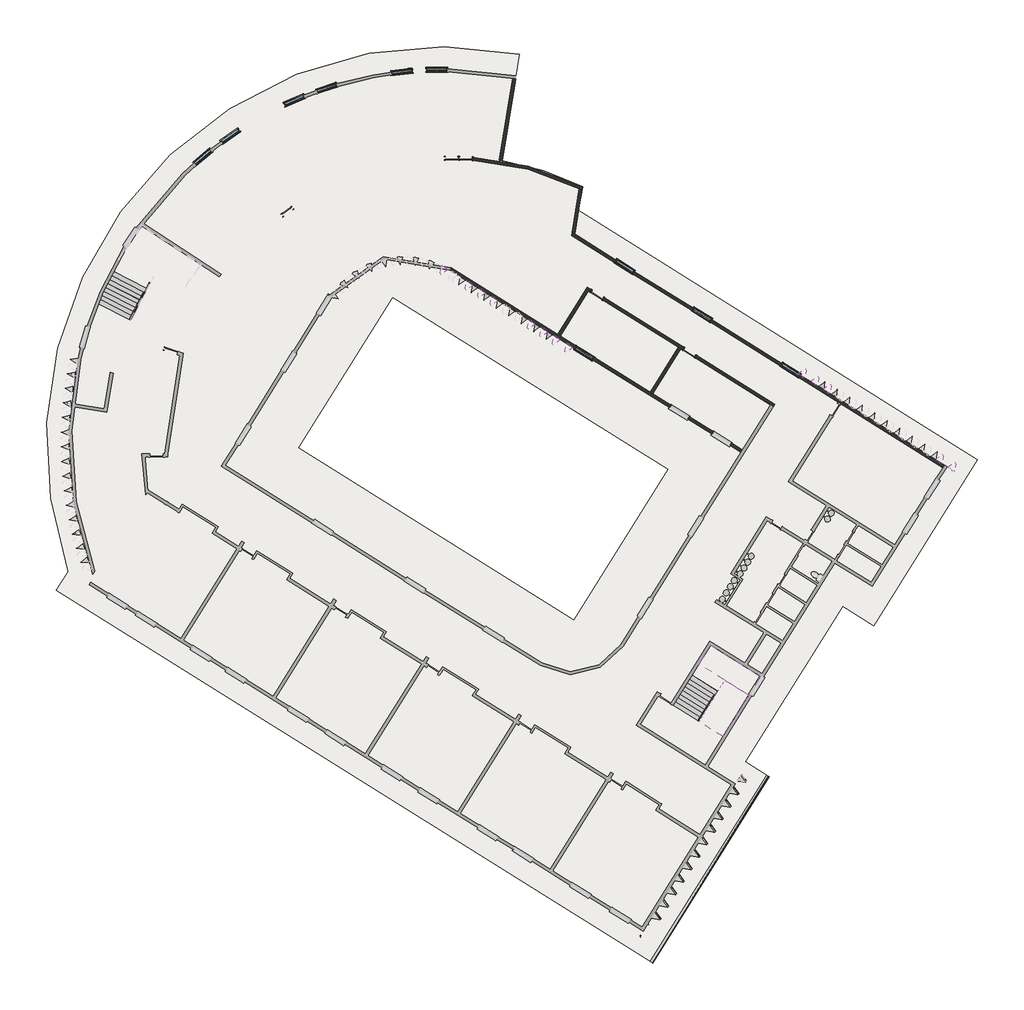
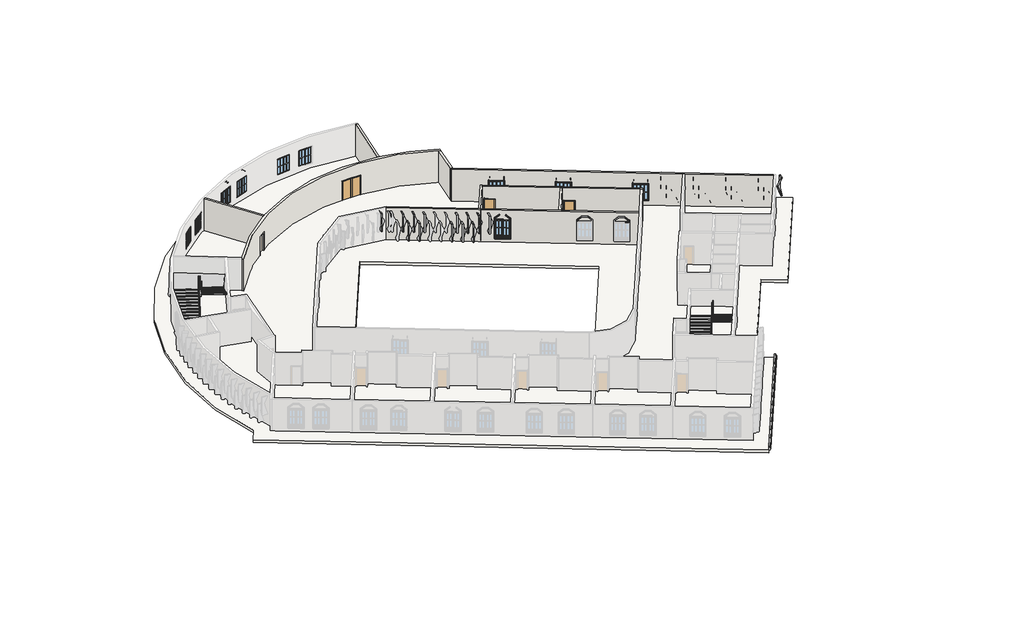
# One storey, part 5 of 7: 20 plates, 10 windows, 9 walls, 4 doors, 3 stair flights, 2 proxies, 2 railings, 2 slabs.
"""IFC4 building model written with IfcOpenShell, lengths in millimetres."""

from ifc_helpers import new_model, si_unit, point, frame, frame_2d, origin, place, context, project, spatial, polyline, circle_curve, trimmed, segment, composite_curve, outline, extrude, faceted_brep, transform, mapped, element, save
from ifc_brep_helpers import plane_surface, cylinder_surface, revolved_surface, advanced_brep
from components import m_single_flush_0915_x_2134mm_6a9e8738, m_single_flush_0915_x_2134mm_727434cd, plate_91021fb5, railing_900mm_pipe_fb1db97c, railing_900mm_pipe_e0949c61, railing_900mm_pipe_ab40f20e, railing_900mm_pipe_1c167c74, non_monolithic_landing_7629b929, stair_flight_50mm_tread_13mm_riser_935e73ca, stair_flight_50mm_tread_13mm_riser_4906f76d, stair_flight_50mm_tread_13mm_riser_db531893, m_window_casement_double_1400_x_1800mm_877d247a, m_window_casement_double_1400_x_1800mm_eb8f2d9a

model = new_model("IFC4")

# Units and contexts
model_context = context("Model", 3, world=origin())
ifc_project = project(units=[si_unit("LENGTHUNIT", "METRE", prefix="MILLI")], contexts=[model_context])

# Site, building, storey
site = spatial("IfcSite", under=ifc_project)
building = spatial("IfcBuilding", under=site)
storey = spatial("IfcBuildingStorey", under=building, Name="\u200fطبقه اول", Elevation=3600.0)

# Proxies
placement = place(None, origin())
element("IfcBuildingElementProxy", 1, Name="Slab Edge", ObjectType="Slab Edge", at=placement, inside=storey, context=model_context, shape_type="SweptSolid", body=[
    extrude(outline(composite_curve([segment(trimmed(circle_curve(frame_2d((-25.0, 173.6933982)), 240.0), [point((0.0, 412.3877634))], [point((204.7347142, 243.1337399))], False, "CARTESIAN"), True, "CONTINUOUS"), segment(trimmed(circle_curve(frame_2d((128.1564761, 219.9869594)), 80.0), [point((204.7347142, 243.1337399))], [point((184.7250186, 163.4184169))], False, "CARTESIAN"), True, "CONTINUOUS"), segment(polyline([(184.7250186, 163.4184169), (175.1471862, 153.8405845)]), True, "CONTINUOUS"), segment(trimmed(circle_curve(frame_2d((260.0, 68.9877707)), 120.0), [point((175.1471862, 153.8405845))], [point((140.0, 68.9877707))], True, "CARTESIAN"), True, "CONTINUOUS"), segment(polyline([(140.0, 68.9877707), (140.0, 24.4091476), (0.0, 24.4091476), (0.0, 412.3877634)]), True, "CONTINUOUS")], self_intersect=False)), frame((42607.9900357, -69663.1030013, 4013.6933982), z_axis=(0.529919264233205, 0.848048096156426, 0.0), x_axis=(0.848048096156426, -0.529919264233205, 0.0)), (0.0, 0.0, 1.0), 14924.0),
])
element("IfcBuildingElementProxy", 2, Name="Slab Edge", ObjectType="Slab Edge", at=placement, inside=storey, context=model_context, shape_type="SweptSolid", body=[
    extrude(outline(composite_curve([segment(trimmed(circle_curve(frame_2d((-25.0, 173.6933982)), 240.0), [point((0.0, 412.3877634))], [point((204.7347142, 243.1337399))], False, "CARTESIAN"), True, "CONTINUOUS"), segment(trimmed(circle_curve(frame_2d((128.1564761, 219.9869594)), 80.0), [point((204.7347142, 243.1337399))], [point((184.7250186, 163.4184169))], False, "CARTESIAN"), True, "CONTINUOUS"), segment(polyline([(184.7250186, 163.4184169), (175.1471862, 153.8405845)]), True, "CONTINUOUS"), segment(trimmed(circle_curve(frame_2d((260.0, 68.9877707)), 120.0), [point((175.1471862, 153.8405845))], [point((140.0, 68.9877707))], True, "CARTESIAN"), True, "CONTINUOUS"), segment(polyline([(140.0, 68.9877707), (140.0, 24.4091476), (0.0, 24.4091476), (0.0, 412.3877634)]), True, "CONTINUOUS")], self_intersect=False)), frame((42607.9900357, -69663.1030013, 4013.6933982), z_axis=(0.529919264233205, 0.848048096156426, 0.0), x_axis=(0.848048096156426, -0.529919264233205, 0.0)), (0.0, 0.0, 1.0), 14924.0),
])

# Doors
m_single_flush_0915_x_2134mm_shape = m_single_flush_0915_x_2134mm_6a9e8738(model_context)
element("IfcDoor", 3, ObjectType="M_Single-Flush : 0915 x 2134mm", at=placement, inside=storey, context=model_context, shape_type="MappedRepresentation", body=[
    mapped(m_single_flush_0915_x_2134mm_shape, transform((38997.6225262, -24350.5747751, 3600.0), x_axis=(-0.8480480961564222, 0.5299192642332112, 0.0), y_axis=(-0.5299192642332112, -0.8480480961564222, 0.0), z_axis=(0.0, 0.0, 1.0))),
])
element("IfcDoor", 4, ObjectType="M_Single-Flush : 0915 x 2134mm", at=placement, inside=storey, context=model_context, shape_type="MappedRepresentation", body=[
    mapped(m_single_flush_0915_x_2134mm_shape, transform((45273.1784378, -28271.9773304, 3600.0), x_axis=(-0.8480480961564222, 0.5299192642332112, 0.0), y_axis=(-0.5299192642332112, -0.8480480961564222, 0.0), z_axis=(0.0, 0.0, 1.0))),
])
element("IfcDoor", 5, ObjectType="M_Single-Flush : 0915 x 2134mm", at=placement, inside=storey, context=model_context, shape_type="MappedRepresentation", body=[
    mapped(m_single_flush_0915_x_2134mm_shape, transform((29130.4178059, -15060.6925463, 3600.0), x_axis=(-0.9999690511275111, -0.007867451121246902, 0.0), y_axis=(0.007867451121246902, -0.9999690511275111, 0.0), z_axis=(0.0, 0.0, 1.0))),
])
m_single_flush_0915_x_2134mm_2_shape = m_single_flush_0915_x_2134mm_727434cd(model_context)
element("IfcDoor", 6, ObjectType="M_Single-Flush : 0915 x 2134mm", at=placement, inside=storey, context=model_context, shape_type="MappedRepresentation", body=[
    mapped(m_single_flush_0915_x_2134mm_2_shape, transform((30049.19591, -15075.0282196, 3600.0), x_axis=(0.9992368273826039, -0.039061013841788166, 0.0), y_axis=(0.039061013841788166, 0.9992368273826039, 0.0), z_axis=(0.0, 0.0, 1.0))),
])

# Plates
plate_shape = plate_91021fb5(model_context)
element("IfcPlate", 7, ObjectType="مدل پارامتریک کصینوس دار : مدل پارامتریک کصینوس دار", at=placement, inside=storey, context=model_context, shape_type="MappedRepresentation", body=[
    mapped(plate_shape, transform((28321.7437148, -22867.9268573, 1850.0), x_axis=(0.0, 0.0, 1.0), y_axis=(0.848048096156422, -0.5299192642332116, 0.0), z_axis=(0.5299192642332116, 0.848048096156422, 0.0))),
])
element("IfcPlate", 8, ObjectType="مدل پارامتریک کصینوس دار : مدل پارامتریک کصینوس دار", at=placement, inside=storey, context=model_context, shape_type="MappedRepresentation", body=[
    mapped(plate_shape, transform((28745.7677628, -23132.8864894, 850.0), x_axis=(0.0, 0.0, 1.0), y_axis=(0.848048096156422, -0.5299192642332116, 0.0), z_axis=(0.5299192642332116, 0.848048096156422, 0.0))),
])
element("IfcPlate", 9, ObjectType="مدل پارامتریک کصینوس دار : مدل پارامتریک کصینوس دار", at=placement, inside=storey, context=model_context, shape_type="MappedRepresentation", body=[
    mapped(plate_shape, transform((29169.7918109, -23397.8461216, 1850.0), x_axis=(0.0, 0.0, 1.0), y_axis=(0.848048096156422, -0.5299192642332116, 0.0), z_axis=(0.5299192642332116, 0.848048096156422, 0.0))),
])
element("IfcPlate", 10, ObjectType="مدل پارامتریک کصینوس دار : مدل پارامتریک کصینوس دار", at=placement, inside=storey, context=model_context, shape_type="MappedRepresentation", body=[
    mapped(plate_shape, transform((29593.815859, -23662.8057537, 850.0), x_axis=(0.0, 0.0, 1.0), y_axis=(0.848048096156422, -0.5299192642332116, 0.0), z_axis=(0.5299192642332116, 0.848048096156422, 0.0))),
])
element("IfcPlate", 11, ObjectType="مدل پارامتریک کصینوس دار : مدل پارامتریک کصینوس دار", at=placement, inside=storey, context=model_context, shape_type="MappedRepresentation", body=[
    mapped(plate_shape, transform((30017.8399071, -23927.7653858, 1850.0), x_axis=(0.0, 0.0, 1.0), y_axis=(0.848048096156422, -0.5299192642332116, 0.0), z_axis=(0.5299192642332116, 0.848048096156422, 0.0))),
])
element("IfcPlate", 12, ObjectType="مدل پارامتریک کصینوس دار : مدل پارامتریک کصینوس دار", at=placement, inside=storey, context=model_context, shape_type="MappedRepresentation", body=[
    mapped(plate_shape, transform((26625.6475224, -21808.0883289, 1850.0), x_axis=(0.0, 0.0, 1.0), y_axis=(0.848048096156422, -0.5299192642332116, 0.0), z_axis=(0.5299192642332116, 0.848048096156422, 0.0))),
])
element("IfcPlate", 13, ObjectType="مدل پارامتریک کصینوس دار : مدل پارامتریک کصینوس دار", at=placement, inside=storey, context=model_context, shape_type="MappedRepresentation", body=[
    mapped(plate_shape, transform((32137.9601475, -25252.5635464, 850.0), x_axis=(0.0, 0.0, 1.0), y_axis=(0.848048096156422, -0.5299192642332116, 0.0), z_axis=(0.5299192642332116, 0.848048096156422, 0.0))),
])
element("IfcPlate", 14, ObjectType="مدل پارامتریک کصینوس دار : مدل پارامتریک کصینوس دار", at=placement, inside=storey, context=model_context, shape_type="MappedRepresentation", body=[
    mapped(plate_shape, transform((32561.9841955, -25517.5231785, 1850.0), x_axis=(0.0, 0.0, 1.0), y_axis=(0.848048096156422, -0.5299192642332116, 0.0), z_axis=(0.5299192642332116, 0.848048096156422, 0.0))),
])
element("IfcPlate", 15, ObjectType="مدل پارامتریک کصینوس دار : مدل پارامتریک کصینوس دار", at=placement, inside=storey, context=model_context, shape_type="MappedRepresentation", body=[
    mapped(plate_shape, transform((32986.0082436, -25782.4828106, 850.0), x_axis=(0.0, 0.0, 1.0), y_axis=(0.848048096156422, -0.5299192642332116, 0.0), z_axis=(0.5299192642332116, 0.848048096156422, 0.0))),
])
element("IfcPlate", 16, ObjectType="مدل پارامتریک کصینوس دار : مدل پارامتریک کصینوس دار", at=placement, inside=storey, context=model_context, shape_type="MappedRepresentation", body=[
    mapped(plate_shape, transform((33410.0322917, -26047.4424427, 1850.0), x_axis=(0.0, 0.0, 1.0), y_axis=(0.848048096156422, -0.5299192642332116, 0.0), z_axis=(0.5299192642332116, 0.848048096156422, 0.0))),
])
element("IfcPlate", 17, ObjectType="مدل پارامتریک کصینوس دار : مدل پارامتریک کصینوس دار", at=placement, inside=storey, context=model_context, shape_type="MappedRepresentation", body=[
    mapped(plate_shape, transform((33834.0563398, -26312.4020748, 850.0), x_axis=(0.0, 0.0, 1.0), y_axis=(0.848048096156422, -0.5299192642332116, 0.0), z_axis=(0.5299192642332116, 0.848048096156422, 0.0))),
])
element("IfcPlate", 18, ObjectType="مدل پارامتریک کصینوس دار : مدل پارامتریک کصینوس دار", at=placement, inside=storey, context=model_context, shape_type="MappedRepresentation", body=[
    mapped(plate_shape, transform((34258.0803878, -26577.361707, 1850.0), x_axis=(0.0, 0.0, 1.0), y_axis=(0.848048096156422, -0.5299192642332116, 0.0), z_axis=(0.5299192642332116, 0.848048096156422, 0.0))),
])
element("IfcPlate", 19, ObjectType="مدل پارامتریک کصینوس دار : مدل پارامتریک کصینوس دار", at=placement, inside=storey, context=model_context, shape_type="MappedRepresentation", body=[
    mapped(plate_shape, transform((35106.128484, -27107.2809712, 1850.0), x_axis=(0.0, 0.0, 1.0), y_axis=(0.8480480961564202, -0.5299192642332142, 0.0), z_axis=(0.5299192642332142, 0.8480480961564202, 0.0))),
])
element("IfcPlate", 20, ObjectType="مدل پارامتریک کصینوس دار : مدل پارامتریک کصینوس دار", at=placement, inside=storey, context=model_context, shape_type="MappedRepresentation", body=[
    mapped(plate_shape, transform((64233.0592008, -36346.0548444, 1850.0), x_axis=(0.0, 0.0, 1.0), y_axis=(-0.848048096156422, 0.5299192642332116, 0.0), z_axis=(-0.5299192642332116, -0.848048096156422, 0.0))),
])
element("IfcPlate", 21, ObjectType="مدل پارامتریک کصینوس دار : مدل پارامتریک کصینوس دار", at=placement, inside=storey, context=model_context, shape_type="MappedRepresentation", body=[
    mapped(plate_shape, transform((65081.107297, -36875.9741086, 1850.0), x_axis=(0.0, 0.0, 1.0), y_axis=(-0.8480480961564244, 0.5299192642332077, 0.0), z_axis=(-0.5299192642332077, -0.8480480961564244, 0.0))),
])
element("IfcPlate", 22, ObjectType="مدل پارامتریک کصینوس دار : مدل پارامتریک کصینوس دار", at=placement, inside=storey, context=model_context, shape_type="MappedRepresentation", body=[
    mapped(plate_shape, transform((57024.6503835, -31841.7410984, 850.0), x_axis=(0.0, 0.0, 1.0), y_axis=(-0.8480480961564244, 0.5299192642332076, 0.0), z_axis=(-0.5299192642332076, -0.8480480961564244, 0.0))),
])
element("IfcPlate", 23, ObjectType="مدل پارامتریک کصینوس دار : مدل پارامتریک کصینوس دار", at=placement, inside=storey, context=model_context, shape_type="MappedRepresentation", body=[
    mapped(plate_shape, transform((56600.6263354, -31576.7814663, 1850.0), x_axis=(0.0, 0.0, 1.0), y_axis=(-0.8480480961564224, 0.5299192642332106, 0.0), z_axis=(-0.5299192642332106, -0.8480480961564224, 0.0))),
])
element("IfcPlate", 24, ObjectType="مدل پارامتریک کصینوس دار : مدل پارامتریک کصینوس دار", at=placement, inside=storey, context=model_context, shape_type="MappedRepresentation", body=[
    mapped(plate_shape, transform((56176.6022874, -31311.8218342, 850.0), x_axis=(0.0, 0.0, 1.0), y_axis=(-0.8480480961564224, 0.5299192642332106, 0.0), z_axis=(-0.5299192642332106, -0.8480480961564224, 0.0))),
])
element("IfcPlate", 25, ObjectType="مدل پارامتریک کصینوس دار : مدل پارامتریک کصینوس دار", at=placement, inside=storey, context=model_context, shape_type="MappedRepresentation", body=[
    mapped(plate_shape, transform((55752.5782393, -31046.862202, 1850.0), x_axis=(0.0, 0.0, 1.0), y_axis=(-0.8480480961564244, 0.5299192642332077, 0.0), z_axis=(-0.5299192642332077, -0.8480480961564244, 0.0))),
])
element("IfcPlate", 26, ObjectType="مدل پارامتریک کصینوس دار : مدل پارامتریک کصینوس دار", at=placement, inside=storey, context=model_context, shape_type="MappedRepresentation", body=[
    mapped(plate_shape, transform((54904.5301431, -30516.9429378, 1850.0), x_axis=(0.0, 0.0, 1.0), y_axis=(-0.8480480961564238, 0.5299192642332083, 0.0), z_axis=(-0.5299192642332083, -0.8480480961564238, 0.0))),
])

# Railings
railing_900mm_pipe_shape = railing_900mm_pipe_fb1db97c(model_context)
railing_900mm_pipe_2_shape = railing_900mm_pipe_e0949c61(model_context)
railing_900mm_pipe_3_shape = railing_900mm_pipe_ab40f20e(model_context)
element("IfcRailing", 27, ObjectType="900mm Pipe", at=placement, inside=storey, context=model_context, shape_type="MappedRepresentation", body=[
    mapped(railing_900mm_pipe_shape, transform((0.0, 0.0, 0.0), x_axis=(1.0, 0.0, 0.0), y_axis=(0.0, 1.0, 0.0), z_axis=(0.0, 0.0, 1.0))),
    mapped(railing_900mm_pipe_2_shape, transform((0.0, 0.0, 0.0), x_axis=(1.0, 0.0, 0.0), y_axis=(0.0, 1.0, 0.0), z_axis=(0.0, 0.0, 1.0))),
    mapped(railing_900mm_pipe_3_shape, transform((0.0, 0.0, 0.0), x_axis=(1.0, 0.0, 0.0), y_axis=(0.0, 1.0, 0.0), z_axis=(0.0, 0.0, 1.0))),
])
railing_900mm_pipe_4_shape = railing_900mm_pipe_1c167c74(model_context)
element("IfcRailing", 28, ObjectType="900mm Pipe", at=placement, inside=storey, context=model_context, shape_type="MappedRepresentation", body=[
    mapped(railing_900mm_pipe_4_shape, transform((0.0, 0.0, 0.0), x_axis=(1.0, 0.0, 0.0), y_axis=(0.0, 1.0, 0.0), z_axis=(0.0, 0.0, 1.0))),
])

# Slabs
element("IfcSlab", 29, ObjectType="Generic 300mm", at=placement, inside=storey, context=model_context, shape_type="AdvancedBrep", body=[
    advanced_brep(
    [(32560.1468391, -15229.2500289, 3300.0), (38009.1695578, -16994.0130265, 3300.0), (37724.5366953, -18602.5131629, 3300.0), (64847.7832747, -35550.9986746, 3300.0), (57799.8570604, -46830.0383535, 3300.0), (55679.73682, -45505.2401929, 3300.0), (49061.0452097, -56097.3609139, 3300.0), (50516.5051351, -57006.8332142, 3300.0), (42607.9900357, -69663.1030013, 3300.0), (2240.9006586, -44438.9460238, 3300.0), (3040.8171967, -43158.8119675, 3300.0), (33712.3314439, -7983.227082, 3300.0), (25100.771805, -24531.4615793, 3300.0), (18711.0017166, -34757.2312843, 3300.0), (37401.1890493, -46436.1565299, 3300.0), (43790.9591376, -36210.3868249, 3300.0), (32560.1468391, -15229.2500289, 3600.0), (33712.3314439, -7983.227082, 3600.0), (3040.8171967, -43158.8119675, 3600.0), (2240.9006586, -44438.9460238, 3600.0), (42607.9900357, -69663.1030013, 3600.0), (50516.5051351, -57006.8332142, 3600.0), (49061.0452097, -56097.3609139, 3600.0), (55679.73682, -45505.2401929, 3600.0), (57799.8570604, -46830.0383535, 3600.0), (64847.7832747, -35550.9986746, 3600.0), (37724.5366953, -18602.5131629, 3600.0), (38009.1695578, -16994.0130265, 3600.0), (25100.771805, -24531.4615793, 3600.0), (43790.9591376, -36210.3868249, 3600.0), (37401.1890493, -46436.1565299, 3600.0), (18711.0017166, -34757.2312843, 3600.0), (25100.771805, -24531.4615793, 3301.3056348), (18711.0017166, -34757.2312843, 3301.3056348), (37401.1890493, -46436.1565299, 3301.3056348), (43790.9591376, -36210.3868249, 3301.3056348)],
    [
        (0, 1, circle_curve(frame((29284.4488792, -34638.3554793, 3300.0), z_axis=(0.0, 0.0, -1.0), x_axis=(1.0, 0.0, 0.0)), 19683.5863478)),
        (1, 2),
        (2, 3),
        (3, 4),
        (4, 5),
        (5, 6),
        (6, 7),
        (7, 8),
        (8, 9),
        (9, 10),
        (10, 11, circle_curve(frame((28463.2186017, -34366.1157481, 3300.0), z_axis=(0.0, 0.0, -1.0), x_axis=(1.0, 0.0, 0.0)), 26900.0)),
        (11, 0),
        (12, 13),
        (13, 14),
        (14, 15),
        (15, 12),
        (16, 17),
        (17, 18, circle_curve(frame((28463.2186017, -34366.1157481, 3600.0), z_axis=(0.0, 0.0, 1.0), x_axis=(1.0, 0.0, 0.0)), 26900.0)),
        (18, 19),
        (19, 20),
        (20, 21),
        (21, 22),
        (22, 23),
        (23, 24),
        (24, 25),
        (25, 26),
        (26, 27),
        (27, 16, circle_curve(frame((29284.4488792, -34638.3554793, 3600.0), z_axis=(0.0, 0.0, 1.0), x_axis=(1.0, 0.0, 0.0)), 19683.5863478)),
        (28, 29),
        (29, 30),
        (30, 31),
        (31, 28),
        (1, 27),
        (26, 2),
        (25, 3),
        (24, 4),
        (23, 5),
        (22, 6),
        (21, 7),
        (20, 8),
        (19, 9),
        (18, 10),
        (17, 11),
        (16, 0),
        (12, 32),
        (32, 28),
        (31, 33),
        (33, 13),
        (30, 34),
        (34, 14),
        (29, 35),
        (35, 15),
    ],
    [
        plane_surface(frame((48968.0352269, -34638.3554793, 3300.0), z_axis=(0.0, 0.0, -1.0), x_axis=(0.0, -1.0, 0.0))),
        plane_surface(frame((48968.0352269, -34638.3554793, 3600.0), z_axis=(0.0, 0.0, 1.0), x_axis=(0.0, 1.0, 0.0))),
        plane_surface(frame((38009.1695578, -16994.0130265, 3300.0), z_axis=(0.9847017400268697, -0.17424833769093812, 0.0), x_axis=(0.0, 0.0, 1.0))),
        plane_surface(frame((37724.5366953, -18602.5131629, 3300.0), z_axis=(0.5299192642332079, 0.8480480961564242, 0.0), x_axis=(0.0, 0.0, 1.0))),
        plane_surface(frame((64847.7832747, -35550.9986746, 3300.0), z_axis=(0.8480480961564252, -0.5299192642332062, 0.0), x_axis=(0.0, 0.0, 1.0))),
        plane_surface(frame((57799.8570604, -46830.0383535, 3300.0), z_axis=(-0.5299192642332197, -0.8480480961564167, 0.0), x_axis=(0.0, 0.0, 1.0))),
        plane_surface(frame((55679.73682, -45505.2401929, 3300.0), z_axis=(0.848048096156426, -0.529919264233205, 0.0), x_axis=(0.0, 0.0, 1.0))),
        plane_surface(frame((49061.0452097, -56097.3609139, 3300.0), z_axis=(0.5299192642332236, 0.8480480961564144, 0.0), x_axis=(0.0, 0.0, 1.0))),
        plane_surface(frame((50516.5051351, -57006.8332142, 3300.0), z_axis=(0.8480480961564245, -0.5299192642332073, 0.0), x_axis=(0.0, 0.0, 1.0))),
        plane_surface(frame((42607.9900357, -69663.1030013, 3300.0), z_axis=(-0.529919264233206, -0.8480480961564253, 0.0), x_axis=(0.0, 0.0, 1.0))),
        plane_surface(frame((2240.9006586, -44438.9460238, 3300.0), z_axis=(-0.8480480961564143, 0.5299192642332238, 0.0), x_axis=(0.0, 0.0, 1.0))),
        cylinder_surface(frame((28463.2186017, -34366.1157481, 3600.0), z_axis=(0.0, 0.0, -1.0), x_axis=(1.0, 0.0, 0.0)), 26900.0),
        plane_surface(frame((33712.3314439, -7983.227082, 3300.0), z_axis=(0.9875928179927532, -0.15703638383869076, 0.0), x_axis=(0.0, 0.0, 1.0))),
        plane_surface(frame((25100.771805, -24531.4615793, 3300.0), z_axis=(0.8480480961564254, -0.5299192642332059, 0.0), x_axis=(0.0, 0.0, 1.0))),
        plane_surface(frame((18711.0017166, -34757.2312843, 3300.0), z_axis=(0.5299192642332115, 0.848048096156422, 0.0), x_axis=(0.0, 0.0, 1.0))),
        plane_surface(frame((37401.1890493, -46436.1565299, 3300.0), z_axis=(-0.8480480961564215, 0.5299192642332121, 0.0), x_axis=(0.0, 0.0, 1.0))),
        plane_surface(frame((43790.9591376, -36210.3868249, 3300.0), z_axis=(-0.5299192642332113, -0.8480480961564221, 0.0), x_axis=(0.0, 0.0, 1.0))),
        cylinder_surface(frame((29284.4488792, -34638.3554793, 3600.0), z_axis=(0.0, 0.0, -1.0), x_axis=(1.0, 0.0, 0.0)), 19683.5863478),
    ],
    [
        (0, [[1, 2, 3, 4, 5, 6, 7, 8, 9, 10, 11, 12], [13, 14, 15, 16]]),
        (1, [[17, 18, 19, 20, 21, 22, 23, 24, 25, 26, 27, 28], [29, 30, 31, 32]]),
        (2, [[-2, 33, -27, 34]]),
        (3, [[-3, -34, -26, 35]]),
        (4, [[-4, -35, -25, 36]]),
        (5, [[-5, -36, -24, 37]]),
        (6, [[-6, -37, -23, 38]]),
        (7, [[-7, -38, -22, 39]]),
        (8, [[-8, -39, -21, 40]]),
        (9, [[-9, -40, -20, 41]]),
        (10, [[-10, -41, -19, 42]]),
        (11, [[-11, -42, -18, 43]]),
        (12, [[-12, -43, -17, 44]]),
        (13, [[-13, 45, 46, -32, 47, 48]]),
        (14, [[-14, -48, -47, -31, 49, 50]]),
        (15, [[-15, -50, -49, -30, 51, 52]]),
        (16, [[-16, -52, -51, -29, -46, -45]]),
        (17, [[-1, -44, -28, -33]]),
    ],
),
])
non_monolithic_landing_shape = non_monolithic_landing_7629b929(model_context)
element("IfcSlab", 30, ObjectType="Non-Monolithic Landing", at=placement, inside=storey, context=model_context, shape_type="MappedRepresentation", body=[
    mapped(non_monolithic_landing_shape, transform((0.0, 0.0, 0.0), x_axis=(1.0, 0.0, 0.0), y_axis=(0.0, 1.0, 0.0), z_axis=(0.0, 0.0, 1.0))),
])

# Stair flights
stair_flight_50mm_tread_13mm_riser_shape = stair_flight_50mm_tread_13mm_riser_935e73ca(model_context)
element("IfcStairFlight", 31, ObjectType="50mm Tread 13mm Riser", at=placement, inside=storey, context=model_context, shape_type="MappedRepresentation", body=[
    mapped(stair_flight_50mm_tread_13mm_riser_shape, transform((0.0, 0.0, 0.0), x_axis=(1.0, 0.0, 0.0), y_axis=(0.0, 1.0, 0.0), z_axis=(0.0, 0.0, 1.0))),
])
stair_flight_50mm_tread_13mm_riser_2_shape = stair_flight_50mm_tread_13mm_riser_4906f76d(model_context)
element("IfcStairFlight", 32, ObjectType="50mm Tread 13mm Riser", at=placement, inside=storey, context=model_context, shape_type="MappedRepresentation", body=[
    mapped(stair_flight_50mm_tread_13mm_riser_2_shape, transform((0.0, 0.0, 0.0), x_axis=(1.0, 0.0, 0.0), y_axis=(0.0, 1.0, 0.0), z_axis=(0.0, 0.0, 1.0))),
])
stair_flight_50mm_tread_13mm_riser_3_shape = stair_flight_50mm_tread_13mm_riser_db531893(model_context)
element("IfcStairFlight", 33, ObjectType="50mm Tread 13mm Riser", at=placement, inside=storey, context=model_context, shape_type="MappedRepresentation", body=[
    mapped(stair_flight_50mm_tread_13mm_riser_3_shape, transform((0.0, 0.0, 0.0), x_axis=(1.0, 0.0, 0.0), y_axis=(0.0, 1.0, 0.0), z_axis=(0.0, 0.0, 1.0))),
])

# Walls
element("IfcWall", 34, ObjectType="Generic - 200mm", at=placement, inside=storey, context=model_context, shape_type="AdvancedBrep", body=[
    advanced_brep(
    [(37988.2881496, -16983.7030198, 7200.0), (32530.3023083, -15224.2368273, 7200.0), (32332.881894, -15192.2600934, 7200.0), (18648.3297429, -18075.8515422, 7200.0), (18480.5842014, -18184.7821717, 7200.0), (13437.2648154, -22963.1544096, 7200.0), (13319.2946092, -23124.9971226, 7200.0), (13486.8274273, -23234.6151527, 7200.0), (37767.5073827, -17098.4624828, 7200.0), (37955.3927954, -17190.5800173, 7200.0), (30502.4385245, -15192.8768738, 3600.0), (30510.2528599, -14992.9749507, 3600.0), (32332.8784519, -15192.2595048, 3600.0), (32530.3066888, -15224.23759, 3600.0), (37988.2881496, -16983.7030198, 3600.0), (37955.3927954, -17190.5800173, 3600.0), (37767.5085257, -17098.4630065, 3600.0), (29587.1169017, -14957.0962823, 3600.0), (29595.9511629, -14957.2341231, 3600.0), (29588.5979456, -15145.3399811, 3600.0), (28673.7191397, -15164.3434079, 3600.0), (18292.4194148, -18551.546435, 3600.0), (18176.3561425, -18388.6217195, 3600.0), (18480.600027, -18184.7716766, 3600.0), (18648.330951, -18075.8506955, 3600.0), (28672.1452199, -14964.2950001, 3600.0), (17671.7937383, -18993.663806, 3600.0), (13486.8274273, -23234.6151527, 3600.0), (13319.2946092, -23124.9971226, 3600.0), (13437.2633045, -22963.156374, 3600.0), (17555.730466, -18830.7390905, 3600.0), (18176.3561425, -18388.6217195, 5632.0), (17555.730466, -18830.7390905, 5632.0), (30510.2528599, -14992.9749507, 5734.0), (29595.9511629, -14957.2341231, 5734.0), (29587.1169017, -14957.0962823, 5734.0), (28672.1452199, -14964.2950001, 5734.0), (18292.4194148, -18551.546435, 5632.0), (28673.7191397, -15164.3434079, 5734.0), (30502.4385245, -15192.8768738, 5734.0), (17671.7937383, -18993.663806, 5632.0), (29588.5979456, -15145.3399811, 5734.0)],
    [
        (0, 1, circle_curve(frame((29284.4488792, -34638.3554793, 7200.0), z_axis=(0.0, 0.0, 1.0), x_axis=(1.0, 0.0, 0.0)), 19683.5863478)),
        (1, 2, circle_curve(frame((29284.4488792, -34638.3554793, 7200.0), z_axis=(0.0, 0.0, 1.0), x_axis=(1.0, 0.0, 0.0)), 19683.5862463)),
        (2, 3, circle_curve(frame((29284.4488792, -34638.3554793, 7200.0), z_axis=(0.0, 0.0, 1.0), x_axis=(1.0, 0.0, 0.0)), 19683.5862993)),
        (3, 4, circle_curve(frame((29284.4488792, -34638.3554793, 7200.0), z_axis=(0.0, 0.0, 1.0), x_axis=(1.0, 0.0, 0.0)), 19683.5862318)),
        (4, 5, circle_curve(frame((29284.4488792, -34638.3554793, 7200.0), z_axis=(0.0, 0.0, 1.0), x_axis=(1.0, 0.0, 0.0)), 19683.5862221)),
        (5, 6, circle_curve(frame((29284.4488792, -34638.3554793, 7200.0), z_axis=(0.0, 0.0, 1.0), x_axis=(1.0, 0.0, 0.0)), 19683.5861257)),
        (6, 7),
        (7, 8, circle_curve(frame((29284.4488792, -34638.3554793, 7200.0), z_axis=(0.0, 0.0, -1.0), x_axis=(1.0, 0.0, 0.0)), 19483.5863478)),
        (8, 9, circle_curve(frame((29284.4488792, -34638.3554793, 7200.0), z_axis=(0.0, 0.0, -1.0), x_axis=(1.0, 0.0, 0.0)), 19483.5861151)),
        (9, 0),
        (10, 11),
        (11, 12, circle_curve(frame((29284.4488792, -34638.3554793, 3600.0), z_axis=(0.0, 0.0, -1.0), x_axis=(1.0, 0.0, 0.0)), 19683.5863478)),
        (12, 13, circle_curve(frame((29284.4488792, -34638.3554793, 3600.0), z_axis=(0.0, 0.0, -1.0), x_axis=(1.0, 0.0, 0.0)), 19683.5863478)),
        (13, 14, circle_curve(frame((29284.4488792, -34638.3554793, 3600.0), z_axis=(0.0, 0.0, -1.0), x_axis=(1.0, 0.0, 0.0)), 19683.5862164)),
        (14, 15),
        (15, 16, circle_curve(frame((29284.4488792, -34638.3554793, 3600.0), z_axis=(0.0, 0.0, 1.0), x_axis=(1.0, 0.0, 0.0)), 19483.5863478)),
        (16, 10, circle_curve(frame((29284.4488792, -34638.3554793, 3600.0), z_axis=(0.0, 0.0, 1.0), x_axis=(1.0, 0.0, 0.0)), 19483.5861413)),
        (17, 18, circle_curve(frame((29284.4488792, -34638.3554793, 3600.0), z_axis=(0.0, 0.0, -1.0), x_axis=(1.0, 0.0, 0.0)), 19683.5863478)),
        (18, 19),
        (19, 17),
        (20, 21, circle_curve(frame((29284.4488792, -34638.3554793, 3600.0), z_axis=(0.0, 0.0, 1.0), x_axis=(1.0, 0.0, 0.0)), 19483.5863478)),
        (21, 22),
        (22, 23, circle_curve(frame((29284.4488792, -34638.3554793, 3600.0), z_axis=(0.0, 0.0, -1.0), x_axis=(1.0, 0.0, 0.0)), 19683.5863478)),
        (23, 24, circle_curve(frame((29284.4488792, -34638.3554793, 3600.0), z_axis=(0.0, 0.0, -1.0), x_axis=(1.0, 0.0, 0.0)), 19683.5863087)),
        (24, 25, circle_curve(frame((29284.4488792, -34638.3554793, 3600.0), z_axis=(0.0, 0.0, -1.0), x_axis=(1.0, 0.0, 0.0)), 19683.5862914)),
        (25, 20),
        (26, 27, circle_curve(frame((29284.4488792, -34638.3554793, 3600.0), z_axis=(0.0, 0.0, 1.0), x_axis=(1.0, 0.0, 0.0)), 19483.5863478)),
        (27, 28),
        (28, 29, circle_curve(frame((29284.4488792, -34638.3554793, 3600.0), z_axis=(0.0, 0.0, -1.0), x_axis=(1.0, 0.0, 0.0)), 19683.5863478)),
        (29, 30, circle_curve(frame((29284.4488792, -34638.3554793, 3600.0), z_axis=(0.0, 0.0, -1.0), x_axis=(1.0, 0.0, 0.0)), 19683.586177)),
        (30, 26),
        (22, 31),
        (31, 32, circle_curve(frame((29284.4488792, -34638.3554793, 5632.0), z_axis=(0.0, 0.0, 1.0), x_axis=(1.0, 0.0, 0.0)), 19683.5863478)),
        (32, 30),
        (28, 6),
        (0, 14),
        (11, 33),
        (33, 34, circle_curve(frame((29284.4488792, -34638.3554793, 5734.0), z_axis=(0.0, 0.0, 1.0), x_axis=(1.0, 0.0, 0.0)), 19683.5863478)),
        (34, 18),
        (17, 35),
        (35, 36, circle_curve(frame((29284.4488792, -34638.3554793, 5734.0), z_axis=(0.0, 0.0, 1.0), x_axis=(1.0, 0.0, 0.0)), 19683.5863478)),
        (36, 25),
        (37, 21),
        (20, 38),
        (38, 39, circle_curve(frame((29284.4488792, -34638.3554793, 5734.0), z_axis=(0.0, 0.0, -1.0), x_axis=(1.0, 0.0, 0.0)), 19483.5863478)),
        (39, 10),
        (15, 9),
        (7, 27),
        (26, 40),
        (40, 37, circle_curve(frame((29284.4488792, -34638.3554793, 5632.0), z_axis=(0.0, 0.0, -1.0), x_axis=(1.0, 0.0, 0.0)), 19483.5863478)),
        (39, 33),
        (38, 36),
        (35, 41),
        (41, 34),
        (41, 19),
        (37, 31),
        (40, 32),
    ],
    [
        plane_surface(frame((48968.0352269, -34638.3554793, 7200.0), z_axis=(0.0, 0.0, 1.0), x_axis=(0.0, 1.0, 0.0))),
        plane_surface(frame((48968.0352269, -34638.3554793, 3600.0), z_axis=(0.0, 0.0, -1.0), x_axis=(0.0, -1.0, 0.0))),
        cylinder_surface(frame((29284.4488792, -34638.3554793, 3600.0), z_axis=(0.0, 0.0, 1.0), x_axis=(1.0, 0.0, 0.0)), 19683.5863478),
        revolved_surface(polyline([(48768.035227, -34638.3554793, 3600.0), (48768.035227, -34638.3554793, 7200.0)]), (29284.4488792, -34638.3554793, 3600.0), (0.0, 0.0, -1.0)),
        plane_surface(frame((8007.1130947, -19649.1953072, 3600.0), z_axis=(-0.547519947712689, -0.8367926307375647, 0.0), x_axis=(0.8367926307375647, -0.547519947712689, 0.0))),
        plane_surface(frame((30510.2528599, -14992.9749507, 3600.0), z_axis=(-0.9992368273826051, 0.03906101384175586, 0.0), x_axis=(-0.03906101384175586, -0.9992368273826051, 0.0))),
        plane_surface(frame((30510.2528599, -14992.9749507, 5734.0), z_axis=(0.0, 0.0, -1.0), x_axis=(-0.039061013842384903, -0.9992368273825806, 0.0))),
        plane_surface(frame((29595.9511629, -14957.2341231, 5734.0), z_axis=(0.9992368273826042, -0.039061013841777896, 0.0), x_axis=(-0.039061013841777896, -0.9992368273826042, 0.0))),
        plane_surface(frame((28660.1552244, -13440.3421662, 3600.0), z_axis=(0.9999690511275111, 0.007867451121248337, 0.0), x_axis=(0.007867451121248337, -0.9999690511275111, 0.0))),
        plane_surface(frame((29575.1269061, -13433.1434484, 5734.0), z_axis=(-0.9999690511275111, -0.007867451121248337, 0.0), x_axis=(0.007867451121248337, -0.9999690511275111, 0.0))),
        plane_surface(frame((38688.9607331, -12577.2132989, 3600.0), z_axis=(0.9875928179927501, -0.15703638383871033, 0.0), x_axis=(0.15703638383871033, 0.9875928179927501, 0.0))),
        plane_surface(frame((18176.3561425, -18388.6217195, 3600.0), z_axis=(-0.8144693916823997, -0.5802065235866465, 0.0), x_axis=(0.5802065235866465, -0.8144693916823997, 0.0))),
        plane_surface(frame((18176.3561425, -18388.6217195, 5632.0), z_axis=(0.0, 0.0, -1.0), x_axis=(0.5802065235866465, -0.8144693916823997, 0.0))),
        plane_surface(frame((17555.730466, -18830.7390905, 5632.0), z_axis=(0.8144693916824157, 0.580206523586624, 0.0), x_axis=(0.580206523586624, -0.8144693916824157, 0.0))),
    ],
    [
        (0, [[1, 2, 3, 4, 5, 6, 7, 8, 9, 10]]),
        (1, [[11, 12, 13, 14, 15, 16, 17]]),
        (1, [[18, 19, 20]]),
        (1, [[21, 22, 23, 24, 25, 26]]),
        (1, [[27, 28, 29, 30, 31]]),
        (2, [[-25, -24, -23, 32, 33, 34, -30, -29, 35, -6, -5, -4, -3, -2, -1, 36, -14, -13, -12, 37, 38, 39, -18, 40, 41, 42]]),
        (3, [[43, -21, 44, 45, 46, -17, -16, 47, -9, -8, 48, -27, 49, 50]]),
        (4, [[-7, -35, -28, -48]]),
        (5, [[-37, -11, -46, 51]]),
        (6, [[-38, -51, -45, 52, -41, 53, 54]]),
        (7, [[-39, -54, 55, -19]]),
        (8, [[-52, -44, -26, -42]]),
        (9, [[-53, -40, -20, -55]]),
        (10, [[-10, -47, -15, -36]]),
        (11, [[-32, -22, -43, 56]]),
        (12, [[-33, -56, -50, 57]]),
        (13, [[-34, -57, -49, -31]]),
    ],
),
])
element("IfcWall", 35, ObjectType="Generic - 200mm", at=placement, inside=storey, context=model_context, shape_type="Brep", body=[
    faceted_brep([(36492.0518831, -27147.877145, 3600.0), (38399.759698, -24094.9064575, 3600.0), (38505.7435509, -23925.2968382, 3600.0), (38505.7435509, -23925.2968382, 7200.0), (38399.759698, -24094.9064575, 7200.0), (36492.0518831, -27147.877145, 7200.0), (36322.4422639, -27041.8932922, 3600.0), (36322.4422639, -27041.8932922, 7200.0), (38336.1339316, -23819.3129854, 7200.0), (38336.1339316, -23819.3129854, 3600.0)], [[[0, 1, 2, 3, 4, 5]], [[6, 7, 8, 9]], [[2, 1, 0, 6, 9]], [[5, 4, 3, 8, 7]], [[3, 2, 9, 8]], [[0, 5, 7, 6]]]),
])
element("IfcWall", 36, ObjectType="Generic - 200mm", at=placement, inside=storey, context=model_context, shape_type="Brep", body=[
    faceted_brep([(37256.1574809, -20314.4406325, 3600.0), (55381.6347543, -31640.4958694, 3600.0), (55551.2443735, -31746.4797222, 3600.0), (62505.238762, -36091.8176889, 3600.0), (62505.238762, -36091.8176889, 7200.0), (55551.2443735, -31746.4797222, 7200.0), (55381.6347543, -31640.4958694, 7200.0), (37256.1574809, -20314.4406325, 7200.0), (51480.613512, -29202.8672539, 4200.0), (51480.613512, -29202.8672539, 6000.0), (52667.8808466, -29944.7542238, 6000.0), (52667.8808466, -29944.7542238, 4200.0), (45459.4720293, -25440.4404778, 4200.0), (45459.4720293, -25440.4404778, 6000.0), (46646.7393639, -26182.3274478, 6000.0), (46646.7393639, -26182.3274478, 4200.0), (40201.5738331, -22154.9410396, 4200.0), (40201.5738331, -22154.9410396, 6000.0), (41388.8411677, -22896.8280095, 6000.0), (41388.8411677, -22896.8280095, 4200.0), (62611.2226149, -35922.2080697, 3600.0), (37474.4778337, -20215.0266492, 3600.0), (37290.268284, -20099.9197472, 3600.0), (37290.268284, -20099.9197472, 7200.0), (37474.4778337, -20215.0266492, 7200.0), (62611.2226149, -35922.2080697, 7200.0), (51586.5973648, -29033.2576346, 6000.0), (51586.5973648, -29033.2576346, 4200.0), (52773.8646995, -29775.1446046, 4200.0), (52773.8646995, -29775.1446046, 6000.0), (45565.4558821, -25270.8308586, 6000.0), (45565.4558821, -25270.8308586, 4200.0), (46752.7232167, -26012.7178285, 4200.0), (46752.7232167, -26012.7178285, 6000.0), (40307.557686, -21985.3314203, 6000.0), (40307.557686, -21985.3314203, 4200.0), (41494.8250206, -22727.2183903, 4200.0), (41494.8250206, -22727.2183903, 6000.0)], [[[0, 1, 2, 3, 4, 5, 6, 7], [8, 9, 10, 11], [12, 13, 14, 15], [16, 17, 18, 19]], [[20, 21, 22, 23, 24, 25], [26, 27, 28, 29], [30, 31, 32, 33], [34, 35, 36, 37]], [[3, 2, 1, 0, 22, 21, 20]], [[7, 6, 5, 4, 25, 24, 23]], [[4, 3, 20, 25]], [[0, 7, 23, 22]], [[27, 26, 9, 8]], [[28, 27, 8, 11]], [[29, 28, 11, 10]], [[26, 29, 10, 9]], [[31, 30, 13, 12]], [[32, 31, 12, 15]], [[33, 32, 15, 14]], [[30, 33, 14, 13]], [[35, 34, 17, 16]], [[36, 35, 16, 19]], [[37, 36, 19, 18]], [[34, 37, 18, 17]]]),
])
element("IfcWall", 37, ObjectType="Generic - 200mm", at=placement, inside=storey, context=model_context, shape_type="Brep", body=[
    faceted_brep([(39332.6126038, -24677.8176481, 3600.0), (44505.7059904, -27910.3251599, 3600.0), (44675.3156096, -28016.3090128, 3600.0), (44832.2045074, -28114.3440767, 3600.0), (44832.2045074, -28114.3440767, 5734.0), (45608.1685154, -28599.2202035, 5734.0), (45608.1685154, -28599.2202035, 3600.0), (50781.259631, -31831.7262962, 3600.0), (50950.8692502, -31937.7101491, 3600.0), (50950.8692502, -31937.7101491, 7200.0), (50781.259631, -31831.7262962, 7200.0), (44675.3156096, -28016.3090128, 7200.0), (44505.7059904, -27910.3251599, 7200.0), (38399.759698, -24094.9064575, 7200.0), (38399.759698, -24094.9064575, 3600.0), (38556.6485958, -24192.9415214, 3600.0), (38556.6485958, -24192.9415214, 5734.0), (39332.6126038, -24677.8176481, 5734.0), (44938.1883602, -27944.7344574, 5734.0), (44938.1883602, -27944.7344574, 3600.0), (39438.5964566, -24508.2080289, 3600.0), (39438.5964566, -24508.2080289, 5734.0), (38662.6324487, -24023.3319021, 5734.0), (38662.6324487, -24023.3319021, 3600.0), (38505.7435509, -23925.2968382, 3600.0), (38505.7435509, -23925.2968382, 7200.0), (51056.8531031, -31768.1005299, 7200.0), (51056.8531031, -31768.1005299, 3600.0), (45714.1523682, -28429.6105842, 3600.0), (45714.1523682, -28429.6105842, 5734.0)], [[[0, 1, 2, 3, 4, 5, 6, 7, 8, 9, 10, 11, 12, 13, 14, 15, 16, 17]], [[18, 19, 20, 21, 22, 23, 24, 25, 26, 27, 28, 29]], [[24, 23, 15, 14]], [[28, 27, 8, 7, 6]], [[20, 19, 3, 2, 1, 0]], [[13, 12, 11, 10, 9, 26, 25]], [[14, 13, 25, 24]], [[9, 8, 27, 26]], [[16, 15, 23, 22]], [[17, 16, 22, 21]], [[0, 17, 21, 20]], [[4, 3, 19, 18]], [[5, 4, 18, 29]], [[6, 5, 29, 28]]]),
])
element("IfcWall", 38, ObjectType="Generic - 200mm", at=placement, inside=storey, context=model_context, shape_type="SweptSolid", body=[
    extrude(outline(polyline([(42597.9981754, -30963.2958475), (44505.7059904, -27910.3251599), (44675.3156096, -28016.3090128), (42767.6077946, -31069.2797004), (42597.9981754, -30963.2958475)])), frame((0.0, 0.0, 3600.0), z_axis=(0.0, 0.0, 1.0), x_axis=(1.0, 0.0, 0.0)), (0.0, 0.0, 1.0), 3600.0),
])
element("IfcWall", 39, ObjectType="Generic - 200mm", at=placement, inside=storey, context=model_context, shape_type="Brep", body=[
    faceted_brep([(28968.3249901, -22682.3664782, 3600.0), (48767.5679632, -35054.306603, 3600.0), (48767.5679632, -35054.306603, 7200.0), (28968.3249901, -22682.3664782, 7200.0), (37488.5305552, -28006.3818078, 4200.0), (37488.5305552, -28006.3818078, 6000.0), (38675.7978899, -28748.2687777, 6000.0), (38675.7978899, -28748.2687777, 4200.0), (43933.696086, -32033.7682159, 4200.0), (43933.696086, -32033.7682159, 6000.0), (45120.9634207, -32775.6551859, 6000.0), (45120.9634207, -32775.6551859, 4200.0), (46817.059613, -33835.4937143, 4200.0), (46817.059613, -33835.4937143, 6000.0), (48004.3269476, -34577.3806843, 6000.0), (48004.3269476, -34577.3806843, 4200.0), (29074.308843, -22512.7568589, 3600.0), (29074.308843, -22512.7568589, 7200.0), (36322.4422639, -27041.8932922, 7200.0), (36492.0518831, -27147.877145, 7200.0), (42597.9981754, -30963.2958475, 7200.0), (42767.6077946, -31069.2797004, 7200.0), (48873.551816, -34884.6969838, 7200.0), (48873.551816, -34884.6969838, 3600.0), (42767.6077946, -31069.2797004, 3600.0), (42597.9981754, -30963.2958475, 3600.0), (36492.0518831, -27147.877145, 3600.0), (36322.4422639, -27041.8932922, 3600.0), (37594.5144081, -27836.7721885, 6000.0), (37594.5144081, -27836.7721885, 4200.0), (38781.7817427, -28578.6591585, 4200.0), (38781.7817427, -28578.6591585, 6000.0), (44039.6799389, -31864.1585967, 6000.0), (44039.6799389, -31864.1585967, 4200.0), (45226.9472735, -32606.0455666, 4200.0), (45226.9472735, -32606.0455666, 6000.0), (46923.0434658, -33665.8840951, 6000.0), (46923.0434658, -33665.8840951, 4200.0), (48110.3108004, -34407.771065, 4200.0), (48110.3108004, -34407.771065, 6000.0)], [[[0, 1, 2, 3], [4, 5, 6, 7], [8, 9, 10, 11], [12, 13, 14, 15]], [[16, 17, 18, 19, 20, 21, 22, 23, 24, 25, 26, 27], [28, 29, 30, 31], [32, 33, 34, 35], [36, 37, 38, 39]], [[1, 0, 16, 27, 26, 25, 24, 23]], [[3, 2, 22, 21, 20, 19, 18, 17]], [[0, 3, 17, 16]], [[2, 1, 23, 22]], [[29, 28, 5, 4]], [[30, 29, 4, 7]], [[31, 30, 7, 6]], [[28, 31, 6, 5]], [[33, 32, 9, 8]], [[34, 33, 8, 11]], [[35, 34, 11, 10]], [[32, 35, 10, 9]], [[37, 36, 13, 12]], [[38, 37, 12, 15]], [[39, 38, 15, 14]], [[36, 39, 14, 13]]]),
])
element("IfcWall", 40, ObjectType="Generic - 200mm", at=placement, inside=storey, context=model_context, shape_type="SweptSolid", body=[
    extrude(outline(composite_curve([segment(polyline([(37290.268284, -20099.9197472), (37767.5263093, -17098.471378)]), True, "CONTINUOUS"), segment(trimmed(circle_curve(frame_2d((29284.4488792, -34638.3554793)), 19483.5863478), [point((37767.5263093, -17098.471378))], [point((37955.3927954, -17190.5800173))], False, "CARTESIAN"), True, "CONTINUOUS"), segment(polyline([(37955.3927954, -17190.5800173), (37474.4778337, -20215.0266492), (37290.268284, -20099.9197472)]), True, "CONTINUOUS")], self_intersect=False)), frame((0.0, 0.0, 3600.0), z_axis=(0.0, 0.0, 1.0), x_axis=(1.0, 0.0, 0.0)), (0.0, 0.0, 1.0), 3600.0),
])
element("IfcWall", 41, ObjectType="Generic - 200mm", at=placement, inside=storey, context=model_context, shape_type="SweptSolid", body=[
    extrude(outline(composite_curve([segment(polyline([(32332.8790777, -15192.2596029), (33263.2393764, -9627.4860253)]), True, "CONTINUOUS"), segment(trimmed(circle_curve(frame_2d((28463.2186017, -34366.1157481)), 25200.0), [point((33263.2393764, -9627.4860253))], [point((33459.5130175, -9666.378055))], False, "CARTESIAN"), True, "CONTINUOUS"), segment(polyline([(33459.5130175, -9666.378055), (32530.3086279, -15224.237781)]), True, "CONTINUOUS"), segment(trimmed(circle_curve(frame_2d((29284.4488792, -34638.3554793)), 19683.5863478), [point((32530.3086279, -15224.237781))], [point((32332.8790777, -15192.2596029))], True, "CARTESIAN"), True, "CONTINUOUS")], self_intersect=False)), frame((0.0, 0.0, 3600.0), z_axis=(0.0, 0.0, 1.0), x_axis=(1.0, 0.0, 0.0)), (0.0, 0.0, 1.0), 3600.0),
])
element("IfcWall", 42, ObjectType="Generic - 200mm", at=placement, inside=storey, context=model_context, shape_type="SweptSolid", body=[
    extrude(outline(composite_curve([segment(polyline([(15307.111177, -12872.9345636), (18648.3264009, -18075.8535506)]), True, "CONTINUOUS"), segment(trimmed(circle_curve(frame_2d((29284.4488792, -34638.3554793)), 19683.5863478), [point((18648.3264009, -18075.8535506))], [point((18480.5880147, -18184.7795175))], True, "CARTESIAN"), True, "CONTINUOUS"), segment(polyline([(18480.5880147, -18184.7795175), (15138.8237355, -12981.0055451), (15307.111177, -12872.9345636)]), True, "CONTINUOUS")], self_intersect=False)), frame((0.0, 0.0, 3600.0), z_axis=(0.0, 0.0, 1.0), x_axis=(1.0, 0.0, 0.0)), (0.0, 0.0, 1.0), 3600.0),
])

# Windows
m_window_casement_double_1400_x_1800mm_shape = m_window_casement_double_1400_x_1800mm_877d247a(model_context)
element("IfcWindow", 43, ObjectType="M_Window-Casement-Double : 1400 x 1800mm", at=placement, inside=storey, context=model_context, shape_type="MappedRepresentation", body=[
    mapped(m_window_casement_double_1400_x_1800mm_shape, transform((12201.8088369, -14996.9493323, 3300.0), x_axis=(-0.7658740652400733, -0.6429906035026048, 0.0), y_axis=(0.6429906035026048, -0.7658740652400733, 0.0), z_axis=(0.0, 0.0, 1.0))),
])
element("IfcWindow", 44, ObjectType="M_Window-Casement-Double : 1400 x 1800mm", at=placement, inside=storey, context=model_context, shape_type="MappedRepresentation", body=[
    mapped(m_window_casement_double_1400_x_1800mm_shape, transform((14063.5068953, -13575.5804507, 3300.0), x_axis=(-0.8220762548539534, -0.5693774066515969, 0.0), y_axis=(0.5693774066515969, -0.8220762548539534, 0.0), z_axis=(0.0, 0.0, 1.0))),
])
element("IfcWindow", 45, ObjectType="M_Window-Casement-Double : 1400 x 1800mm", at=placement, inside=storey, context=model_context, shape_type="MappedRepresentation", body=[
    mapped(m_window_casement_double_1400_x_1800mm_shape, transform((18420.4023201, -11155.344621, 3300.0), x_axis=(-0.9177745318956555, -0.397101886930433, 0.0), y_axis=(0.397101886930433, -0.9177745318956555, 0.0), z_axis=(0.0, 0.0, 1.0))),
])
element("IfcWindow", 46, ObjectType="M_Window-Casement-Double : 1400 x 1800mm", at=placement, inside=storey, context=model_context, shape_type="MappedRepresentation", body=[
    mapped(m_window_casement_double_1400_x_1800mm_shape, transform((20624.8091835, -10321.2120683, 3300.0), x_axis=(-0.9507568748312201, -0.3099376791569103, 0.0), y_axis=(0.3099376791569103, -0.9507568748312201, 0.0), z_axis=(0.0, 0.0, 1.0))),
])
element("IfcWindow", 47, ObjectType="M_Window-Casement-Double : 1400 x 1800mm", at=placement, inside=storey, context=model_context, shape_type="MappedRepresentation", body=[
    mapped(m_window_casement_double_1400_x_1800mm_shape, transform((28101.5908608, -9078.4254511, 3300.0), x_axis=(-0.9998977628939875, -0.014299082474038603, 0.0), y_axis=(0.014299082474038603, -0.9998977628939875, 0.0), z_axis=(0.0, 0.0, 1.0))),
])
element("IfcWindow", 48, ObjectType="M_Window-Casement-Double : 1400 x 1800mm", at=placement, inside=storey, context=model_context, shape_type="MappedRepresentation", body=[
    mapped(m_window_casement_double_1400_x_1800mm_shape, transform((40848.1994268, -22441.0797149, 3300.0), x_axis=(-0.8480480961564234, 0.529919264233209, 0.0), y_axis=(-0.529919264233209, -0.8480480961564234, 0.0), z_axis=(0.0, 0.0, 1.0))),
])
element("IfcWindow", 49, ObjectType="M_Window-Casement-Double : 1400 x 1800mm", at=placement, inside=storey, context=model_context, shape_type="MappedRepresentation", body=[
    mapped(m_window_casement_double_1400_x_1800mm_shape, transform((46106.097623, -25726.5791532, 3300.0), x_axis=(-0.8480480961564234, 0.529919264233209, 0.0), y_axis=(-0.529919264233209, -0.8480480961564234, 0.0), z_axis=(0.0, 0.0, 1.0))),
])
element("IfcWindow", 50, ObjectType="M_Window-Casement-Double : 1400 x 1800mm", at=placement, inside=storey, context=model_context, shape_type="MappedRepresentation", body=[
    mapped(m_window_casement_double_1400_x_1800mm_shape, transform((52127.2391057, -29489.0059292, 3300.0), x_axis=(-0.8480480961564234, 0.529919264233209, 0.0), y_axis=(-0.529919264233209, -0.8480480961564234, 0.0), z_axis=(0.0, 0.0, 1.0))),
])
m_window_casement_double_1400_x_1800mm_2_shape = m_window_casement_double_1400_x_1800mm_eb8f2d9a(model_context)
element("IfcWindow", 51, ObjectType="M_Window-Casement-Double : 1400 x 1800mm", at=placement, inside=storey, context=model_context, shape_type="MappedRepresentation", body=[
    mapped(m_window_casement_double_1400_x_1800mm_2_shape, transform((38135.156149, -28292.5204831, 3300.0), x_axis=(-0.848048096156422, 0.5299192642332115, 0.0), y_axis=(-0.5299192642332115, -0.848048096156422, 0.0), z_axis=(0.0, 0.0, 1.0))),
])
element("IfcWindow", 52, ObjectType="M_Window-Casement-Double : 1400 x 1800mm", at=placement, inside=storey, context=model_context, shape_type="MappedRepresentation", body=[
    mapped(m_window_casement_double_1400_x_1800mm_2_shape, transform((25716.2138318, -9225.4709677, 3300.0), x_axis=(0.9940834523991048, 0.10861901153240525, 0.0), y_axis=(-0.10861901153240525, 0.9940834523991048, 0.0), z_axis=(0.0, 0.0, 1.0))),
])

save(model, "model.ifc")
